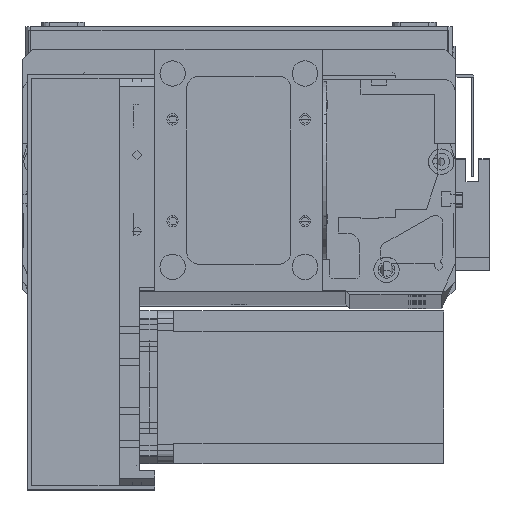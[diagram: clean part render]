
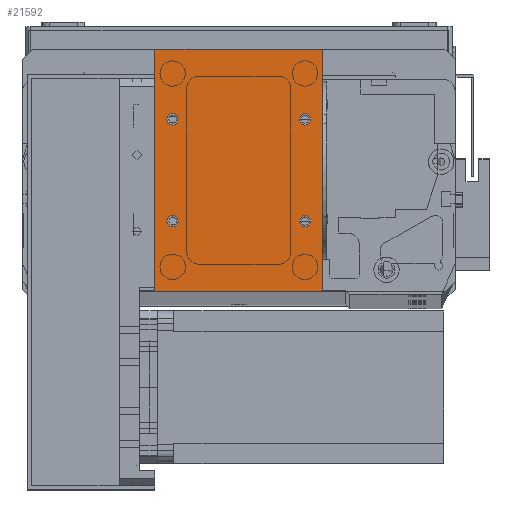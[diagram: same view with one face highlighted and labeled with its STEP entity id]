
A CAD part, top view. The second image highlights one B-rep face of the part: STEP entity #21592.
In plain terms, the highlighted planar face has unit normal (0, 0, 1).
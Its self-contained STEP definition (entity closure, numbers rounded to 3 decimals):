
#82 = ORIENTED_EDGE ( 'NONE', *, *, #14191, .F. ) ;
#170 = VECTOR ( 'NONE', #14367, 1000. ) ;
#635 = CARTESIAN_POINT ( 'NONE',  ( 9.25, 27.5, 2. ) ) ;
#2012 = VERTEX_POINT ( 'NONE', #2765 ) ;
#2604 = VERTEX_POINT ( 'NONE', #14368 ) ;
#2765 = CARTESIAN_POINT ( 'NONE',  ( 56.75, 67.5, 2. ) ) ;
#2823 = CIRCLE ( 'NONE', #10222, 2.25 ) ;
#2968 = FACE_OUTER_BOUND ( 'NONE', #17522, .T. ) ;
#3002 = EDGE_CURVE ( 'NONE', #5771, #25371, #23776, .T. ) ;
#3004 = DIRECTION ( 'NONE',  ( 1., 0., 0. ) ) ;
#3117 = DIRECTION ( 'NONE',  ( 0., 0., 1. ) ) ;
#3226 = CARTESIAN_POINT ( 'NONE',  ( 7., 27.5, 2. ) ) ;
#3239 = CARTESIAN_POINT ( 'NONE',  ( 7., 67.5, 2. ) ) ;
#3534 = DIRECTION ( 'NONE',  ( 0., 0., 1. ) ) ;
#3605 = LINE ( 'NONE', #22427, #14660 ) ;
#3837 = FACE_BOUND ( 'NONE', #21865, .T. ) ;
#4753 = CARTESIAN_POINT ( 'NONE',  ( 4.75, 67.5, 2. ) ) ;
#5618 = ORIENTED_EDGE ( 'NONE', *, *, #21276, .T. ) ;
#5771 = VERTEX_POINT ( 'NONE', #29856 ) ;
#6042 = DIRECTION ( 'NONE',  ( 1., 0., 0. ) ) ;
#7000 = EDGE_LOOP ( 'NONE', ( #9716, #13213 ) ) ;
#7182 = LINE ( 'NONE', #34631, #34951 ) ;
#7508 = DIRECTION ( 'NONE',  ( 0., 0., 1. ) ) ;
#7907 = DIRECTION ( 'NONE',  ( -1., 0., 0. ) ) ;
#8026 = AXIS2_PLACEMENT_3D ( 'NONE', #30418, #14210, #33086 ) ;
#8266 = CARTESIAN_POINT ( 'NONE',  ( 7., 27.5, 2. ) ) ;
#9003 = AXIS2_PLACEMENT_3D ( 'NONE', #13428, #32354, #16171 ) ;
#9285 = AXIS2_PLACEMENT_3D ( 'NONE', #23805, #7508, #26473 ) ;
#9373 = ORIENTED_EDGE ( 'NONE', *, *, #17165, .F. ) ;
#9420 = PLANE ( 'NONE',  #15872 ) ;
#9716 = ORIENTED_EDGE ( 'NONE', *, *, #16417, .F. ) ;
#9997 = LINE ( 'NONE', #25120, #170 ) ;
#10190 = FACE_BOUND ( 'NONE', #7000, .T. ) ;
#10222 = AXIS2_PLACEMENT_3D ( 'NONE', #19844, #3534, #22628 ) ;
#10947 = DIRECTION ( 'NONE',  ( 1., 0., 0. ) ) ;
#11568 = ORIENTED_EDGE ( 'NONE', *, *, #3002, .F. ) ;
#12104 = DIRECTION ( 'NONE',  ( 0., 0., -1. ) ) ;
#12198 = CIRCLE ( 'NONE', #9285, 2.25 ) ;
#12605 = AXIS2_PLACEMENT_3D ( 'NONE', #33159, #33116, #33105 ) ;
#12672 = VERTEX_POINT ( 'NONE', #18249 ) ;
#12811 = EDGE_CURVE ( 'NONE', #25371, #5771, #16104, .T. ) ;
#12934 = CARTESIAN_POINT ( 'NONE',  ( 0., 0., 2. ) ) ;
#13023 = EDGE_CURVE ( 'NONE', #23043, #30502, #26342, .T. ) ;
#13213 = ORIENTED_EDGE ( 'NONE', *, *, #13023, .F. ) ;
#13428 = CARTESIAN_POINT ( 'NONE',  ( 59., 67.5, 2. ) ) ;
#14191 = EDGE_CURVE ( 'NONE', #28201, #2604, #12198, .T. ) ;
#14210 = DIRECTION ( 'NONE',  ( 0., 0., 1. ) ) ;
#14338 = CARTESIAN_POINT ( 'NONE',  ( 0., 95., 2. ) ) ;
#14367 = DIRECTION ( 'NONE',  ( 0., -1., 0. ) ) ;
#14368 = CARTESIAN_POINT ( 'NONE',  ( 61.25, 27.5, 2. ) ) ;
#14509 = CARTESIAN_POINT ( 'NONE',  ( 0., 0., 2. ) ) ;
#14660 = VECTOR ( 'NONE', #33033, 1000. ) ;
#15530 = EDGE_CURVE ( 'NONE', #22170, #29573, #9997, .T. ) ;
#15819 = EDGE_LOOP ( 'NONE', ( #35087, #9373 ) ) ;
#15872 = AXIS2_PLACEMENT_3D ( 'NONE', #14509, #12104, #31037 ) ;
#16104 = CIRCLE ( 'NONE', #25431, 2.25 ) ;
#16171 = DIRECTION ( 'NONE',  ( 1., 0., 0. ) ) ;
#16417 = EDGE_CURVE ( 'NONE', #30502, #23043, #28803, .T. ) ;
#17165 = EDGE_CURVE ( 'NONE', #2012, #12672, #2823, .T. ) ;
#17522 = EDGE_LOOP ( 'NONE', ( #17592, #32108, #17769, #5618 ) ) ;
#17592 = ORIENTED_EDGE ( 'NONE', *, *, #15530, .T. ) ;
#17769 = ORIENTED_EDGE ( 'NONE', *, *, #33802, .T. ) ;
#18249 = CARTESIAN_POINT ( 'NONE',  ( 61.25, 67.5, 2. ) ) ;
#19844 = CARTESIAN_POINT ( 'NONE',  ( 59., 67.5, 2. ) ) ;
#20487 = LINE ( 'NONE', #24219, #26807 ) ;
#21276 = EDGE_CURVE ( 'NONE', #26519, #22170, #20487, .T. ) ;
#21592 = ADVANCED_FACE ( 'NONE', ( #3837, #31777, #25555, #10190, #2968 ), #9420, .F. ) ;
#21865 = EDGE_LOOP ( 'NONE', ( #11568, #27137 ) ) ;
#22170 = VERTEX_POINT ( 'NONE', #14338 ) ;
#22305 = DIRECTION ( 'NONE',  ( 0., 0., 1. ) ) ;
#22427 = CARTESIAN_POINT ( 'NONE',  ( 66., 0., 2. ) ) ;
#22628 = DIRECTION ( 'NONE',  ( 1., 0., 0. ) ) ;
#22962 = AXIS2_PLACEMENT_3D ( 'NONE', #8266, #27250, #10947 ) ;
#23043 = VERTEX_POINT ( 'NONE', #34636 ) ;
#23271 = AXIS2_PLACEMENT_3D ( 'NONE', #3226, #22305, #6042 ) ;
#23352 = EDGE_LOOP ( 'NONE', ( #31964, #82 ) ) ;
#23776 = CIRCLE ( 'NONE', #12605, 2.25 ) ;
#23801 = EDGE_CURVE ( 'NONE', #2604, #28201, #31751, .T. ) ;
#23805 = CARTESIAN_POINT ( 'NONE',  ( 59., 27.5, 2. ) ) ;
#24219 = CARTESIAN_POINT ( 'NONE',  ( 0., 95., 2. ) ) ;
#25120 = CARTESIAN_POINT ( 'NONE',  ( 0., 0., 2. ) ) ;
#25371 = VERTEX_POINT ( 'NONE', #4753 ) ;
#25431 = AXIS2_PLACEMENT_3D ( 'NONE', #3239, #3117, #3004 ) ;
#25555 = FACE_BOUND ( 'NONE', #23352, .T. ) ;
#26342 = CIRCLE ( 'NONE', #22962, 2.25 ) ;
#26473 = DIRECTION ( 'NONE',  ( 1., 0., 0. ) ) ;
#26519 = VERTEX_POINT ( 'NONE', #29937 ) ;
#26617 = CARTESIAN_POINT ( 'NONE',  ( 66., 0., 2. ) ) ;
#26693 = CARTESIAN_POINT ( 'NONE',  ( 56.75, 27.5, 2. ) ) ;
#26807 = VECTOR ( 'NONE', #7907, 1000. ) ;
#27137 = ORIENTED_EDGE ( 'NONE', *, *, #12811, .F. ) ;
#27250 = DIRECTION ( 'NONE',  ( 0., 0., 1. ) ) ;
#28201 = VERTEX_POINT ( 'NONE', #26693 ) ;
#28803 = CIRCLE ( 'NONE', #23271, 2.25 ) ;
#29573 = VERTEX_POINT ( 'NONE', #12934 ) ;
#29856 = CARTESIAN_POINT ( 'NONE',  ( 9.25, 67.5, 2. ) ) ;
#29937 = CARTESIAN_POINT ( 'NONE',  ( 66., 95., 2. ) ) ;
#30418 = CARTESIAN_POINT ( 'NONE',  ( 59., 27.5, 2. ) ) ;
#30502 = VERTEX_POINT ( 'NONE', #635 ) ;
#30919 = EDGE_CURVE ( 'NONE', #12672, #2012, #33351, .T. ) ;
#31037 = DIRECTION ( 'NONE',  ( -1., 0., 0. ) ) ;
#31386 = EDGE_CURVE ( 'NONE', #29573, #32375, #7182, .T. ) ;
#31751 = CIRCLE ( 'NONE', #8026, 2.25 ) ;
#31777 = FACE_BOUND ( 'NONE', #15819, .T. ) ;
#31964 = ORIENTED_EDGE ( 'NONE', *, *, #23801, .F. ) ;
#32093 = DIRECTION ( 'NONE',  ( 1., 0., 0. ) ) ;
#32108 = ORIENTED_EDGE ( 'NONE', *, *, #31386, .T. ) ;
#32354 = DIRECTION ( 'NONE',  ( 0., 0., 1. ) ) ;
#32375 = VERTEX_POINT ( 'NONE', #26617 ) ;
#33033 = DIRECTION ( 'NONE',  ( 0., 1., 0. ) ) ;
#33086 = DIRECTION ( 'NONE',  ( 1., 0., 0. ) ) ;
#33105 = DIRECTION ( 'NONE',  ( 1., 0., 0. ) ) ;
#33116 = DIRECTION ( 'NONE',  ( 0., 0., 1. ) ) ;
#33159 = CARTESIAN_POINT ( 'NONE',  ( 7., 67.5, 2. ) ) ;
#33351 = CIRCLE ( 'NONE', #9003, 2.25 ) ;
#33802 = EDGE_CURVE ( 'NONE', #32375, #26519, #3605, .T. ) ;
#34631 = CARTESIAN_POINT ( 'NONE',  ( 0., 0., 2. ) ) ;
#34636 = CARTESIAN_POINT ( 'NONE',  ( 4.75, 27.5, 2. ) ) ;
#34951 = VECTOR ( 'NONE', #32093, 1000. ) ;
#35087 = ORIENTED_EDGE ( 'NONE', *, *, #30919, .F. ) ;
